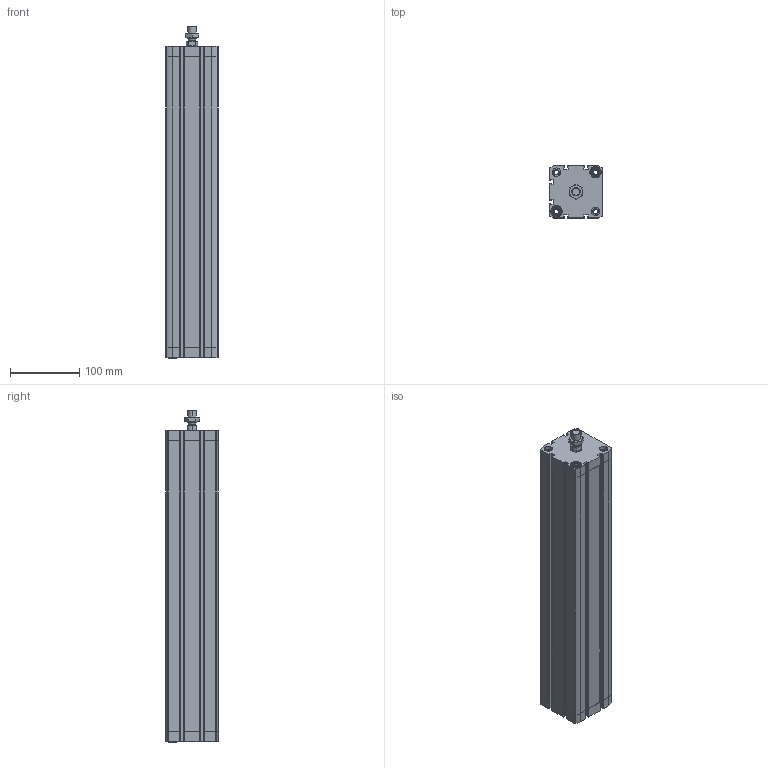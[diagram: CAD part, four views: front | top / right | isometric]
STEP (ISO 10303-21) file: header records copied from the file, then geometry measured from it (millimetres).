
FILE_DESCRIPTION (( 'STEP AP203' ), '1' );
FILE_NAME ('CCN63-400M.STEP', '2017-04-05T18:31:24', ( '' ), ( '' ), 'SwSTEP 2.0', 'SolidWorks 2016', '' );
FILE_SCHEMA (( 'CONFIG_CONTROL_DESIGN' ));
Length unit declared in the file: millimetre
Products named in the file (4): CCN-(Z); CCN_(KS); _DIN-439-B - M12x1.25(F); CCN63-400M
Assembly tree (3 placements, depth 2):
  CCN63-400M
    CCN-(Z)
    CCN_(KS)
    _DIN-439-B - M12x1.25(F)
Bounding box: 75.5 x 75.5 x 478.5 mm (x, y, z)
Volume: 1195553.2 mm3; surface area: 338045.9 mm2
Topology: 3 solids, 3 shells, 491 faces, 1318 edges, 864 vertices
Faces by surface type: plane 227, cylinder 212, cone 48, bspline 4
Entity records: 16092 total; most frequent: CARTESIAN_POINT 3139, DIRECTION 2676, ORIENTED_EDGE 2636, EDGE_CURVE 1318, AXIS2_PLACEMENT_3D 979, VERTEX_POINT 864, VECTOR 718, LINE 718
